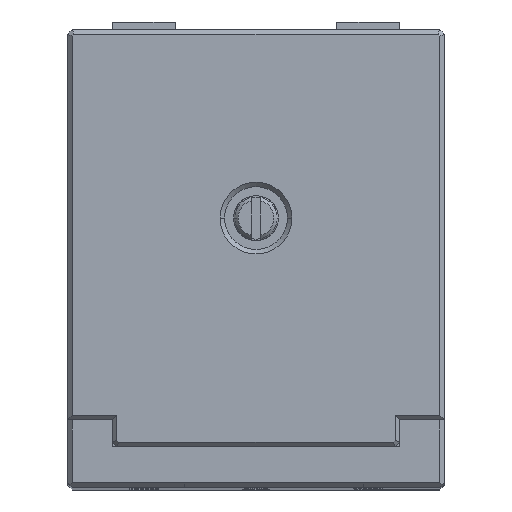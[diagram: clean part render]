
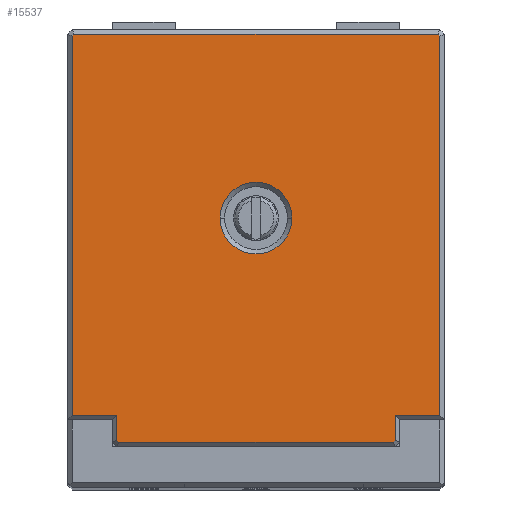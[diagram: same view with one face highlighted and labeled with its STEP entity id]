
A CAD part, top view. The second image highlights one B-rep face of the part: STEP entity #15537.
In plain terms, the highlighted planar face has unit normal (0, 0, 1) as drawn and (0, 0, -1) by its records, which use the part's own axes.
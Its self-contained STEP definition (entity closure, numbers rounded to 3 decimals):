
#887 = ORIENTED_EDGE ( 'NONE', *, *, #27718, .T. ) ;
#1568 = DIRECTION ( 'NONE',  ( 1., 0., 0. ) ) ;
#1916 = FACE_OUTER_BOUND ( 'NONE', #30842, .T. ) ;
#2051 = ORIENTED_EDGE ( 'NONE', *, *, #13321, .T. ) ;
#2379 = CARTESIAN_POINT ( 'NONE',  ( 41.293, 46., 0. ) ) ;
#2583 = EDGE_CURVE ( 'NONE', #26408, #23945, #36956, .T. ) ;
#2630 = DIRECTION ( 'NONE',  ( 0., 0., 1. ) ) ;
#3806 = DIRECTION ( 'NONE',  ( 0.707, -0.707, 0. ) ) ;
#4376 = DIRECTION ( 'NONE',  ( 0., 0., 1. ) ) ;
#4680 = LINE ( 'NONE', #11730, #4851 ) ;
#4851 = VECTOR ( 'NONE', #17352, 1000. ) ;
#5183 = DIRECTION ( 'NONE',  ( -1., 0., 0. ) ) ;
#5881 = EDGE_CURVE ( 'NONE', #9228, #37806, #12050, .T. ) ;
#6026 = DIRECTION ( 'NONE',  ( 0., 1., 0. ) ) ;
#6491 = EDGE_CURVE ( 'NONE', #7625, #31538, #35424, .T. ) ;
#7353 = CARTESIAN_POINT ( 'NONE',  ( 0.707, 46., 0. ) ) ;
#7625 = VERTEX_POINT ( 'NONE', #12257 ) ;
#7720 = CIRCLE ( 'NONE', #24296, 4. ) ;
#7806 = CARTESIAN_POINT ( 'NONE',  ( 0.5, 3.5, 0. ) ) ;
#8883 = EDGE_CURVE ( 'NONE', #37806, #23249, #24590, .T. ) ;
#9144 = CIRCLE ( 'NONE', #26362, 4. ) ;
#9228 = VERTEX_POINT ( 'NONE', #10889 ) ;
#9243 = CARTESIAN_POINT ( 'NONE',  ( 36.5, 0.707, 0. ) ) ;
#10119 = CARTESIAN_POINT ( 'NONE',  ( 0., 3.5, 0. ) ) ;
#10620 = CARTESIAN_POINT ( 'NONE',  ( 21., 25.5, 0. ) ) ;
#10889 = CARTESIAN_POINT ( 'NONE',  ( 41.5, 3.5, 0. ) ) ;
#11730 = CARTESIAN_POINT ( 'NONE',  ( 0.854, 46.146, 0. ) ) ;
#12050 = LINE ( 'NONE', #34440, #35134 ) ;
#12201 = DIRECTION ( 'NONE',  ( -1., 0., 0. ) ) ;
#12257 = CARTESIAN_POINT ( 'NONE',  ( 5.5, 3.5, 0. ) ) ;
#12457 = DIRECTION ( 'NONE',  ( -1., 0., 0. ) ) ;
#13067 = CARTESIAN_POINT ( 'NONE',  ( 0.5, 46., 0. ) ) ;
#13188 = VECTOR ( 'NONE', #36474, 1000. ) ;
#13321 = EDGE_CURVE ( 'NONE', #19643, #25281, #4680, .T. ) ;
#13415 = VECTOR ( 'NONE', #33452, 1000. ) ;
#13428 = VERTEX_POINT ( 'NONE', #25002 ) ;
#13851 = DIRECTION ( 'NONE',  ( -1., 0., 0. ) ) ;
#13978 = VERTEX_POINT ( 'NONE', #33868 ) ;
#14396 = ORIENTED_EDGE ( 'NONE', *, *, #40401, .T. ) ;
#14426 = CARTESIAN_POINT ( 'NONE',  ( 36.293, 0.5, 0. ) ) ;
#14427 = ORIENTED_EDGE ( 'NONE', *, *, #26557, .T. ) ;
#14456 = EDGE_CURVE ( 'NONE', #13428, #9228, #34439, .T. ) ;
#14600 = DIRECTION ( 'NONE',  ( -1., 0., 0. ) ) ;
#14605 = VECTOR ( 'NONE', #3806, 1000. ) ;
#14912 = VERTEX_POINT ( 'NONE', #2379 ) ;
#15537 = ADVANCED_FACE ( 'NONE', ( #1916, #24128 ), #21014, .T. ) ;
#15736 = CARTESIAN_POINT ( 'NONE',  ( 0.5, 45.793, 0. ) ) ;
#15882 = CARTESIAN_POINT ( 'NONE',  ( 36.5, 0.5, 0. ) ) ;
#16552 = CARTESIAN_POINT ( 'NONE',  ( 41.5, 46., 0. ) ) ;
#16844 = VECTOR ( 'NONE', #38310, 1000. ) ;
#17352 = DIRECTION ( 'NONE',  ( 0.707, 0.707, 0. ) ) ;
#17917 = VECTOR ( 'NONE', #13851, 1000. ) ;
#18247 = ORIENTED_EDGE ( 'NONE', *, *, #22605, .T. ) ;
#18854 = VECTOR ( 'NONE', #1568, 1000. ) ;
#19071 = LINE ( 'NONE', #13067, #21162 ) ;
#19643 = VERTEX_POINT ( 'NONE', #15736 ) ;
#20370 = ORIENTED_EDGE ( 'NONE', *, *, #8883, .T. ) ;
#21014 = PLANE ( 'NONE',  #28822 ) ;
#21162 = VECTOR ( 'NONE', #29254, 1000. ) ;
#21196 = CARTESIAN_POINT ( 'NONE',  ( 5.354, 0.854, 0. ) ) ;
#21658 = ORIENTED_EDGE ( 'NONE', *, *, #5881, .T. ) ;
#22487 = LINE ( 'NONE', #25602, #14605 ) ;
#22605 = EDGE_CURVE ( 'NONE', #26762, #13978, #9144, .T. ) ;
#23028 = CARTESIAN_POINT ( 'NONE',  ( 5.5, 0.707, 0. ) ) ;
#23249 = VERTEX_POINT ( 'NONE', #9243 ) ;
#23945 = VERTEX_POINT ( 'NONE', #23028 ) ;
#23979 = VECTOR ( 'NONE', #37263, 1000. ) ;
#24128 = FACE_BOUND ( 'NONE', #37410, .T. ) ;
#24296 = AXIS2_PLACEMENT_3D ( 'NONE', #10620, #4376, #5183 ) ;
#24590 = LINE ( 'NONE', #15882, #31162 ) ;
#25002 = CARTESIAN_POINT ( 'NONE',  ( 41.5, 45.793, 0. ) ) ;
#25281 = VERTEX_POINT ( 'NONE', #7353 ) ;
#25537 = ORIENTED_EDGE ( 'NONE', *, *, #6491, .T. ) ;
#25602 = CARTESIAN_POINT ( 'NONE',  ( 41.646, 45.646, 0. ) ) ;
#25669 = CARTESIAN_POINT ( 'NONE',  ( 41.5, 3., 0. ) ) ;
#26362 = AXIS2_PLACEMENT_3D ( 'NONE', #33757, #2630, #12201 ) ;
#26408 = VERTEX_POINT ( 'NONE', #35681 ) ;
#26557 = EDGE_CURVE ( 'NONE', #23249, #28126, #32971, .T. ) ;
#26558 = ORIENTED_EDGE ( 'NONE', *, *, #33525, .T. ) ;
#26762 = VERTEX_POINT ( 'NONE', #35172 ) ;
#27614 = ORIENTED_EDGE ( 'NONE', *, *, #14456, .T. ) ;
#27718 = EDGE_CURVE ( 'NONE', #31538, #19643, #19071, .T. ) ;
#27827 = LINE ( 'NONE', #37564, #31949 ) ;
#27942 = CARTESIAN_POINT ( 'NONE',  ( 5.5, 0.5, 0. ) ) ;
#28126 = VERTEX_POINT ( 'NONE', #14426 ) ;
#28150 = LINE ( 'NONE', #27942, #23979 ) ;
#28506 = EDGE_CURVE ( 'NONE', #14912, #13428, #22487, .T. ) ;
#28543 = ORIENTED_EDGE ( 'NONE', *, *, #2583, .T. ) ;
#28822 = AXIS2_PLACEMENT_3D ( 'NONE', #36186, #36970, #14600 ) ;
#29254 = DIRECTION ( 'NONE',  ( 0., 1., 0. ) ) ;
#30224 = ORIENTED_EDGE ( 'NONE', *, *, #33288, .T. ) ;
#30838 = ORIENTED_EDGE ( 'NONE', *, *, #28506, .T. ) ;
#30842 = EDGE_LOOP ( 'NONE', ( #26558, #25537, #887, #2051, #34062, #30838, #27614, #21658, #20370, #14427, #30224, #28543 ) ) ;
#31162 = VECTOR ( 'NONE', #37238, 1000. ) ;
#31243 = CARTESIAN_POINT ( 'NONE',  ( 36.146, 0.354, 0. ) ) ;
#31538 = VERTEX_POINT ( 'NONE', #7806 ) ;
#31949 = VECTOR ( 'NONE', #6026, 1000. ) ;
#32971 = LINE ( 'NONE', #31243, #13188 ) ;
#33126 = LINE ( 'NONE', #16552, #18854 ) ;
#33288 = EDGE_CURVE ( 'NONE', #28126, #26408, #28150, .T. ) ;
#33452 = DIRECTION ( 'NONE',  ( -0.707, 0.707, 0. ) ) ;
#33525 = EDGE_CURVE ( 'NONE', #23945, #7625, #27827, .T. ) ;
#33757 = CARTESIAN_POINT ( 'NONE',  ( 21., 25.5, 0. ) ) ;
#33868 = CARTESIAN_POINT ( 'NONE',  ( 17., 25.5, 0. ) ) ;
#34062 = ORIENTED_EDGE ( 'NONE', *, *, #37066, .T. ) ;
#34439 = LINE ( 'NONE', #25669, #16844 ) ;
#34440 = CARTESIAN_POINT ( 'NONE',  ( 37., 3.5, 0. ) ) ;
#35134 = VECTOR ( 'NONE', #12457, 1000. ) ;
#35172 = CARTESIAN_POINT ( 'NONE',  ( 25., 25.5, 0. ) ) ;
#35424 = LINE ( 'NONE', #10119, #17917 ) ;
#35681 = CARTESIAN_POINT ( 'NONE',  ( 5.707, 0.5, 0. ) ) ;
#36186 = CARTESIAN_POINT ( 'NONE',  ( 0., 0., 0. ) ) ;
#36474 = DIRECTION ( 'NONE',  ( -0.707, -0.707, 0. ) ) ;
#36956 = LINE ( 'NONE', #21196, #13415 ) ;
#36970 = DIRECTION ( 'NONE',  ( 0., 0., -1. ) ) ;
#37066 = EDGE_CURVE ( 'NONE', #25281, #14912, #33126, .T. ) ;
#37238 = DIRECTION ( 'NONE',  ( 0., -1., 0. ) ) ;
#37263 = DIRECTION ( 'NONE',  ( -1., 0., 0. ) ) ;
#37410 = EDGE_LOOP ( 'NONE', ( #14396, #18247 ) ) ;
#37564 = CARTESIAN_POINT ( 'NONE',  ( 5.5, 3., 0. ) ) ;
#37806 = VERTEX_POINT ( 'NONE', #38893 ) ;
#38310 = DIRECTION ( 'NONE',  ( 0., -1., 0. ) ) ;
#38893 = CARTESIAN_POINT ( 'NONE',  ( 36.5, 3.5, 0. ) ) ;
#40401 = EDGE_CURVE ( 'NONE', #13978, #26762, #7720, .T. ) ;
